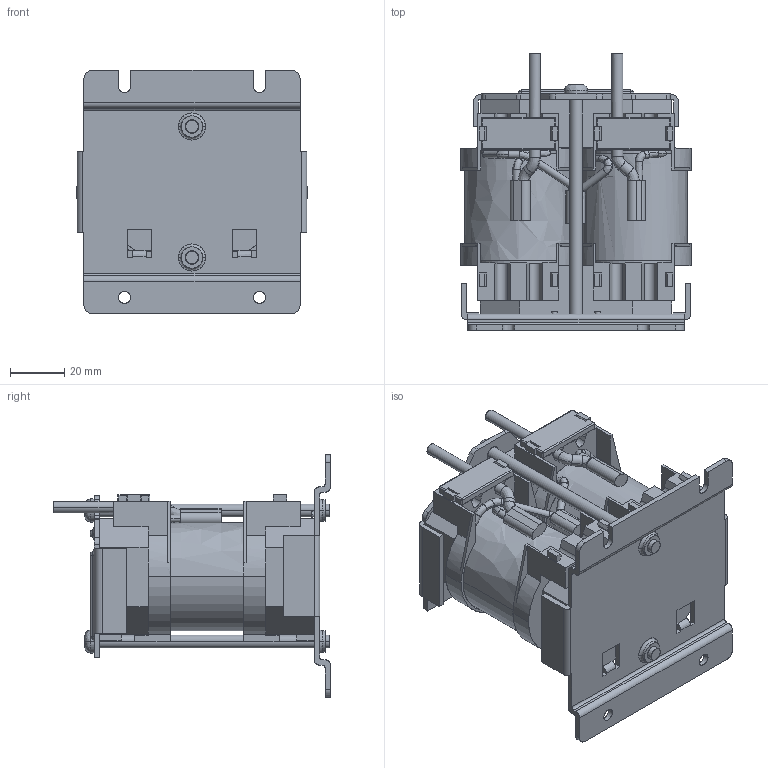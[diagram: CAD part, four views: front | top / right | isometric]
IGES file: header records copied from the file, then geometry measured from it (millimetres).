
Start section: SolidWorks IGES file using analytic representation for surfaces
Global section: file name: \\10.106.230.1\r&d file\05_COMP\02_Mechanical\10_Others\PV_RT 81\网络用3D模型\立式\网络用模型\4KW_S_DCL.IGS; native system: SolidWorks 2009; preprocessor: SolidWorks 2009; author: 钱雅婧,,1; organization: 1; date: 120508.150039; units: millimetre
Bounding box: 85.4 x 102.5 x 90 mm (x, y, z)
Surface area: 91831 mm2 (no closed solid volume)
Topology: 0 solids, 0 shells, 741 faces, 6392 edges, 6376 vertices
Faces by surface type: bspline 486, revolution 255
